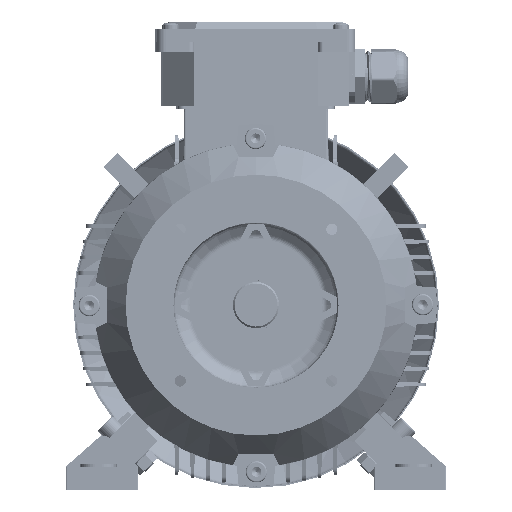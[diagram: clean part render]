
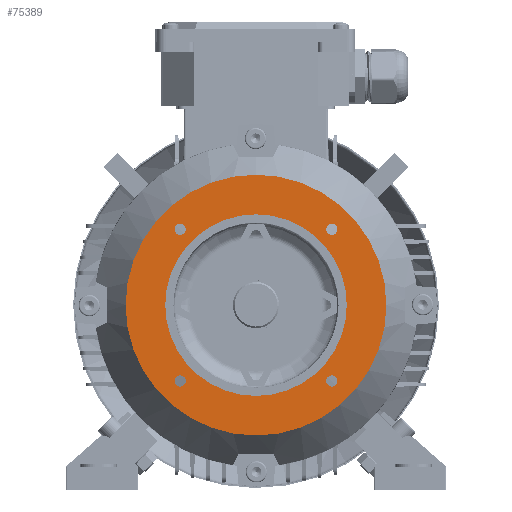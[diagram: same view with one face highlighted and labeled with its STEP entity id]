
A CAD part, front view. The second image highlights one B-rep face of the part: STEP entity #75389.
In plain terms, the highlighted planar face has unit normal (0, -1, 0).
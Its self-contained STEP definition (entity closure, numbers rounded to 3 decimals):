
#407 = ORIENTED_EDGE ( 'NONE', *, *, #124330, .F. ) ;
#899 = CIRCLE ( 'NONE', #66152, 3.4 ) ;
#2180 = ORIENTED_EDGE ( 'NONE', *, *, #89257, .F. ) ;
#2326 = DIRECTION ( 'NONE',  ( 0., 0., -1. ) ) ;
#3071 = VERTEX_POINT ( 'NONE', #54530 ) ;
#3208 = EDGE_CURVE ( 'NONE', #29016, #35284, #7845, .T. ) ;
#4297 = EDGE_LOOP ( 'NONE', ( #121896, #110700 ) ) ;
#4394 = DIRECTION ( 'NONE',  ( 0., -1., 0. ) ) ;
#5420 = EDGE_LOOP ( 'NONE', ( #2180, #78189 ) ) ;
#7845 = CIRCLE ( 'NONE', #57243, 79. ) ;
#8744 = VERTEX_POINT ( 'NONE', #18796 ) ;
#12338 = EDGE_LOOP ( 'NONE', ( #24049, #41979 ) ) ;
#13144 = AXIS2_PLACEMENT_3D ( 'NONE', #17997, #87144, #27984 ) ;
#13294 = AXIS2_PLACEMENT_3D ( 'NONE', #20099, #89189, #30055 ) ;
#14581 = CIRCLE ( 'NONE', #13294, 3.4 ) ;
#16069 = FACE_BOUND ( 'NONE', #88835, .T. ) ;
#17226 = PLANE ( 'NONE',  #125437 ) ;
#17997 = CARTESIAN_POINT ( 'NONE',  ( 45.962, 3.5, 45.962 ) ) ;
#18796 = CARTESIAN_POINT ( 'NONE',  ( 45.962, 3.5, 49.362 ) ) ;
#18802 = CIRCLE ( 'NONE', #63969, 3.4 ) ;
#20099 = CARTESIAN_POINT ( 'NONE',  ( -45.962, 3.5, 45.962 ) ) ;
#21966 = EDGE_CURVE ( 'NONE', #124259, #74868, #45714, .T. ) ;
#22359 = CARTESIAN_POINT ( 'NONE',  ( 0., 3.5, 79. ) ) ;
#23963 = CARTESIAN_POINT ( 'NONE',  ( 45.962, 3.5, 42.562 ) ) ;
#24049 = ORIENTED_EDGE ( 'NONE', *, *, #86651, .F. ) ;
#24829 = VERTEX_POINT ( 'NONE', #58409 ) ;
#27201 = CARTESIAN_POINT ( 'NONE',  ( 55., 3.5, 0. ) ) ;
#27336 = CARTESIAN_POINT ( 'NONE',  ( 0., 3.5, 0. ) ) ;
#27984 = DIRECTION ( 'NONE',  ( 0., 0., -1. ) ) ;
#29016 = VERTEX_POINT ( 'NONE', #22359 ) ;
#29742 = DIRECTION ( 'NONE',  ( 0., -1., 0. ) ) ;
#29763 = DIRECTION ( 'NONE',  ( 0., -1., 0. ) ) ;
#30055 = DIRECTION ( 'NONE',  ( 0., 0., -1. ) ) ;
#32209 = DIRECTION ( 'NONE',  ( 0., -1., 0. ) ) ;
#32780 = CARTESIAN_POINT ( 'NONE',  ( -45.962, 3.5, 45.962 ) ) ;
#34891 = ORIENTED_EDGE ( 'NONE', *, *, #118618, .F. ) ;
#35141 = CIRCLE ( 'NONE', #105855, 3.4 ) ;
#35284 = VERTEX_POINT ( 'NONE', #90960 ) ;
#35609 = CARTESIAN_POINT ( 'NONE',  ( 0., 3.5, -55. ) ) ;
#37135 = DIRECTION ( 'NONE',  ( 0., -1., 0. ) ) ;
#37266 = DIRECTION ( 'NONE',  ( 0., 0., -1. ) ) ;
#38427 = VERTEX_POINT ( 'NONE', #77786 ) ;
#39915 = EDGE_CURVE ( 'NONE', #8744, #99487, #63998, .T. ) ;
#41550 = AXIS2_PLACEMENT_3D ( 'NONE', #103452, #44248, #113337 ) ;
#41979 = ORIENTED_EDGE ( 'NONE', *, *, #39915, .F. ) ;
#42370 = FACE_BOUND ( 'NONE', #91872, .T. ) ;
#42680 = DIRECTION ( 'NONE',  ( 0., 0., -1. ) ) ;
#42935 = DIRECTION ( 'NONE',  ( 0., -1., 0. ) ) ;
#43438 = CARTESIAN_POINT ( 'NONE',  ( -45.962, 3.5, 42.562 ) ) ;
#43461 = CARTESIAN_POINT ( 'NONE',  ( 45.962, 3.5, 45.962 ) ) ;
#43868 = AXIS2_PLACEMENT_3D ( 'NONE', #102129, #42935, #112030 ) ;
#44248 = DIRECTION ( 'NONE',  ( 0., -1., 0. ) ) ;
#44624 = EDGE_CURVE ( 'NONE', #111342, #3071, #18802, .T. ) ;
#44695 = CIRCLE ( 'NONE', #41550, 79. ) ;
#45013 = ORIENTED_EDGE ( 'NONE', *, *, #107864, .T. ) ;
#45714 = CIRCLE ( 'NONE', #83759, 3.4 ) ;
#46145 = AXIS2_PLACEMENT_3D ( 'NONE', #43461, #112564, #53402 ) ;
#53402 = DIRECTION ( 'NONE',  ( 0., 0., -1. ) ) ;
#54530 = CARTESIAN_POINT ( 'NONE',  ( -45.962, 3.5, 49.362 ) ) ;
#55490 = VERTEX_POINT ( 'NONE', #35609 ) ;
#57243 = AXIS2_PLACEMENT_3D ( 'NONE', #27336, #96471, #37266 ) ;
#57959 = CIRCLE ( 'NONE', #46145, 3.4 ) ;
#58409 = CARTESIAN_POINT ( 'NONE',  ( 45.962, 3.5, -49.362 ) ) ;
#61154 = EDGE_CURVE ( 'NONE', #3071, #111342, #14581, .T. ) ;
#61499 = DIRECTION ( 'NONE',  ( 0., -1., 0. ) ) ;
#63164 = VERTEX_POINT ( 'NONE', #109368 ) ;
#63589 = CARTESIAN_POINT ( 'NONE',  ( -45.962, 3.5, -45.962 ) ) ;
#63969 = AXIS2_PLACEMENT_3D ( 'NONE', #32780, #101888, #42680 ) ;
#63998 = CIRCLE ( 'NONE', #13144, 3.4 ) ;
#66152 = AXIS2_PLACEMENT_3D ( 'NONE', #91384, #32209, #101324 ) ;
#73565 = DIRECTION ( 'NONE',  ( 0., 0., -1. ) ) ;
#74868 = VERTEX_POINT ( 'NONE', #94273 ) ;
#75389 = ADVANCED_FACE ( 'NONE', ( #101161, #94957, #42370, #16069, #118076, #91861 ), #17226, .T. ) ;
#77786 = CARTESIAN_POINT ( 'NONE',  ( 0., 3.5, 55. ) ) ;
#78189 = ORIENTED_EDGE ( 'NONE', *, *, #84735, .F. ) ;
#82508 = ORIENTED_EDGE ( 'NONE', *, *, #21966, .F. ) ;
#83759 = AXIS2_PLACEMENT_3D ( 'NONE', #120731, #61499, #2326 ) ;
#84735 = EDGE_CURVE ( 'NONE', #38427, #55490, #112522, .T. ) ;
#85326 = CIRCLE ( 'NONE', #121981, 3.4 ) ;
#85984 = EDGE_LOOP ( 'NONE', ( #109803, #45013 ) ) ;
#86651 = EDGE_CURVE ( 'NONE', #99487, #8744, #57959, .T. ) ;
#87144 = DIRECTION ( 'NONE',  ( 0., -1., 0. ) ) ;
#88145 = AXIS2_PLACEMENT_3D ( 'NONE', #88879, #29742, #98836 ) ;
#88835 = EDGE_LOOP ( 'NONE', ( #102635, #407 ) ) ;
#88879 = CARTESIAN_POINT ( 'NONE',  ( 0., 3.5, 0. ) ) ;
#88902 = CARTESIAN_POINT ( 'NONE',  ( 45.962, 3.5, -45.962 ) ) ;
#89189 = DIRECTION ( 'NONE',  ( 0., -1., 0. ) ) ;
#89257 = EDGE_CURVE ( 'NONE', #55490, #38427, #118373, .T. ) ;
#90960 = CARTESIAN_POINT ( 'NONE',  ( 0., 3.5, -79. ) ) ;
#91384 = CARTESIAN_POINT ( 'NONE',  ( 45.962, 3.5, -45.962 ) ) ;
#91861 = FACE_BOUND ( 'NONE', #5420, .T. ) ;
#91872 = EDGE_LOOP ( 'NONE', ( #82508, #34891 ) ) ;
#94273 = CARTESIAN_POINT ( 'NONE',  ( -45.962, 3.5, -42.562 ) ) ;
#94957 = FACE_BOUND ( 'NONE', #12338, .T. ) ;
#96471 = DIRECTION ( 'NONE',  ( 0., -1., 0. ) ) ;
#98836 = DIRECTION ( 'NONE',  ( 0., 0., -1. ) ) ;
#98856 = DIRECTION ( 'NONE',  ( 0., 0., -1. ) ) ;
#99487 = VERTEX_POINT ( 'NONE', #23963 ) ;
#101161 = FACE_BOUND ( 'NONE', #4297, .T. ) ;
#101324 = DIRECTION ( 'NONE',  ( 0., 0., -1. ) ) ;
#101888 = DIRECTION ( 'NONE',  ( 0., -1., 0. ) ) ;
#102129 = CARTESIAN_POINT ( 'NONE',  ( 0., 3.5, 0. ) ) ;
#102635 = ORIENTED_EDGE ( 'NONE', *, *, #114279, .F. ) ;
#103452 = CARTESIAN_POINT ( 'NONE',  ( 0., 3.5, 0. ) ) ;
#105855 = AXIS2_PLACEMENT_3D ( 'NONE', #88902, #29763, #98856 ) ;
#106212 = DIRECTION ( 'NONE',  ( 0., 0., -1. ) ) ;
#107039 = CARTESIAN_POINT ( 'NONE',  ( -45.962, 3.5, -49.362 ) ) ;
#107864 = EDGE_CURVE ( 'NONE', #35284, #29016, #44695, .T. ) ;
#109368 = CARTESIAN_POINT ( 'NONE',  ( 45.962, 3.5, -42.562 ) ) ;
#109803 = ORIENTED_EDGE ( 'NONE', *, *, #3208, .T. ) ;
#110700 = ORIENTED_EDGE ( 'NONE', *, *, #61154, .F. ) ;
#111342 = VERTEX_POINT ( 'NONE', #43438 ) ;
#112030 = DIRECTION ( 'NONE',  ( 0., 0., -1. ) ) ;
#112522 = CIRCLE ( 'NONE', #88145, 55. ) ;
#112564 = DIRECTION ( 'NONE',  ( 0., -1., 0. ) ) ;
#113337 = DIRECTION ( 'NONE',  ( 0., 0., -1. ) ) ;
#114279 = EDGE_CURVE ( 'NONE', #24829, #63164, #899, .T. ) ;
#118076 = FACE_OUTER_BOUND ( 'NONE', #85984, .T. ) ;
#118373 = CIRCLE ( 'NONE', #43868, 55. ) ;
#118618 = EDGE_CURVE ( 'NONE', #74868, #124259, #85326, .T. ) ;
#120731 = CARTESIAN_POINT ( 'NONE',  ( -45.962, 3.5, -45.962 ) ) ;
#121896 = ORIENTED_EDGE ( 'NONE', *, *, #44624, .F. ) ;
#121981 = AXIS2_PLACEMENT_3D ( 'NONE', #63589, #4394, #73565 ) ;
#124259 = VERTEX_POINT ( 'NONE', #107039 ) ;
#124330 = EDGE_CURVE ( 'NONE', #63164, #24829, #35141, .T. ) ;
#125437 = AXIS2_PLACEMENT_3D ( 'NONE', #27201, #37135, #106212 ) ;
